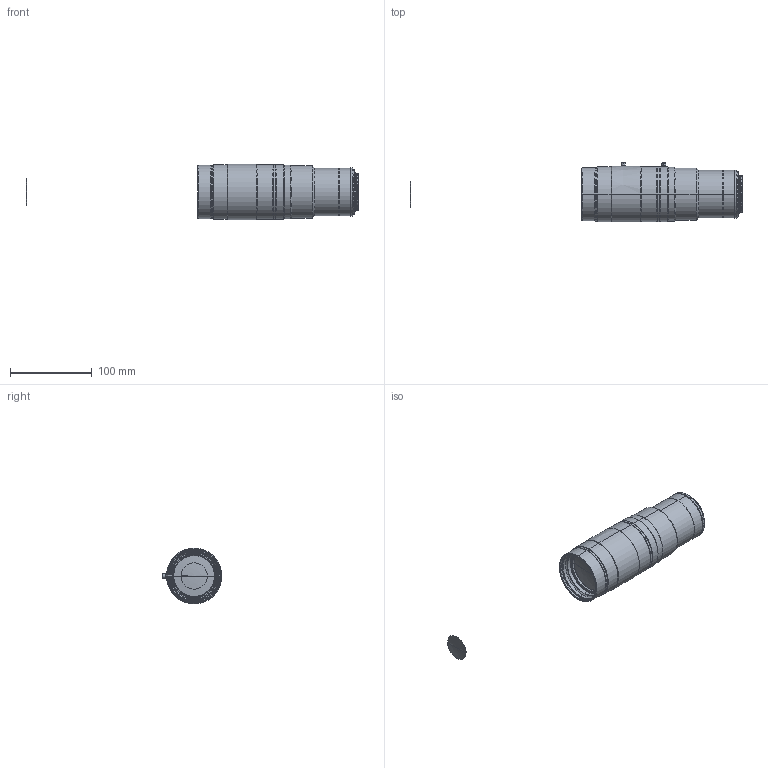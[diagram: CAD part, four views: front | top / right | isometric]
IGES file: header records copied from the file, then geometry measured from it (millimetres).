
Start section: SolidWorks IGES file using analytic representation for surfaces
Bounding box: 406.18 x 73.3 x 68 mm (x, y, z)
Surface area: 53890.4 mm2 (no closed solid volume)
Topology: 0 solids, 0 shells, 196 faces, 4004 edges, 4002 vertices
Faces by surface type: revolution 168, bspline 28
